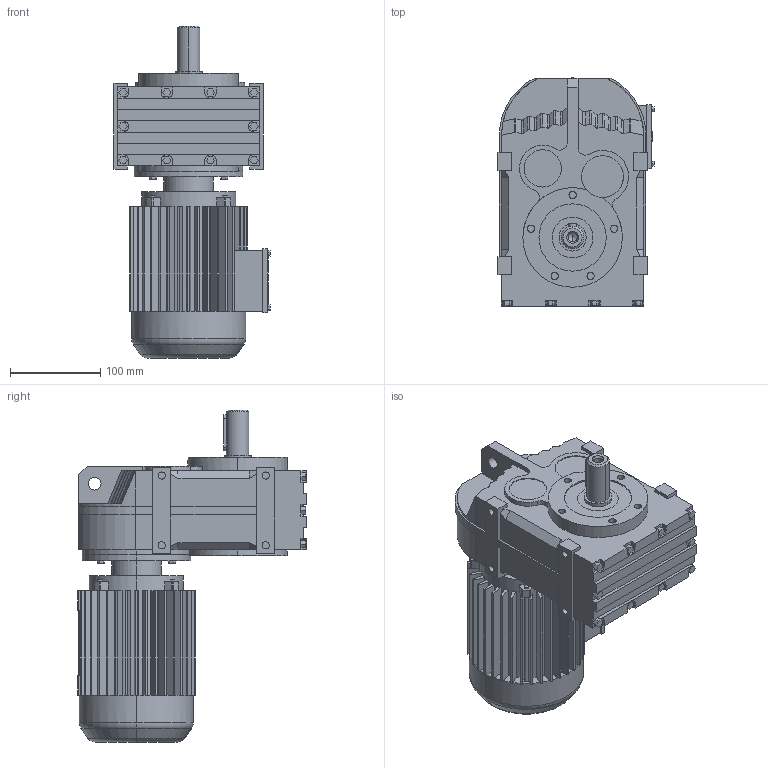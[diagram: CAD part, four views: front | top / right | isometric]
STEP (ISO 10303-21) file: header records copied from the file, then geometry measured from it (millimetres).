
FILE_DESCRIPTION(('Open CASCADE Model'),'2;1');
FILE_NAME('Open CASCADE Shape Model','2018-09-11T15:22:21',('Author'),( 'Open CASCADE'),'Open CASCADE STEP processor 6.3','Open CASCADE 6.3' ,'Unknown');
FILE_SCHEMA(('AUTOMOTIVE_DESIGN_CC2 { 1 2 10303 214 -1 1 5 4 }'));
Length unit declared in the file: millimetre
Products named in the file (4): 1_F37-Y63S; FA27‵157_37.step; 萇儂_120_Y63S.step; す瑩妗陑粣F_37.step
Assembly tree (3 placements, depth 2):
  1_F37-Y63S
    FA27‵157_37.step
    萇儂_120_Y63S.step
    す瑩妗陑粣F_37.step
Bounding box: 172.5 x 253 x 367 mm (x, y, z)
Volume: 5638038.1 mm3; surface area: 423416 mm2
Topology: 3 solids, 3 shells, 784 faces, 2074 edges, 1346 vertices
Faces by surface type: plane 563, cylinder 193, bspline 16, cone 8, torus 4
Entity records: 52846 total; most frequent: CARTESIAN_POINT 13078, DIRECTION 6957, ORIENTED_EDGE 4144, PCURVE 4144, DEFINITIONAL_REPRESENTATION 4144, LINE 3937, VECTOR 3937, EDGE_CURVE 2072
